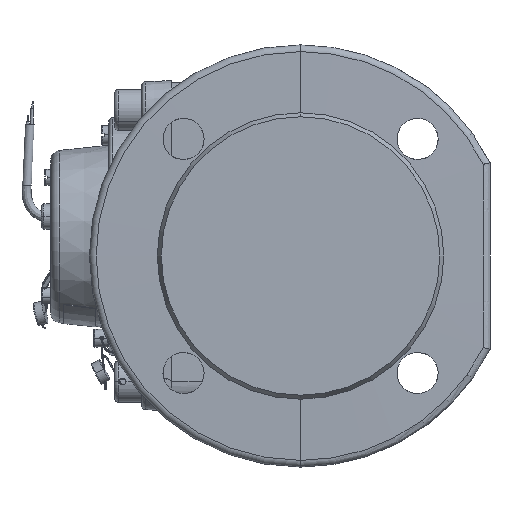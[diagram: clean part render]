
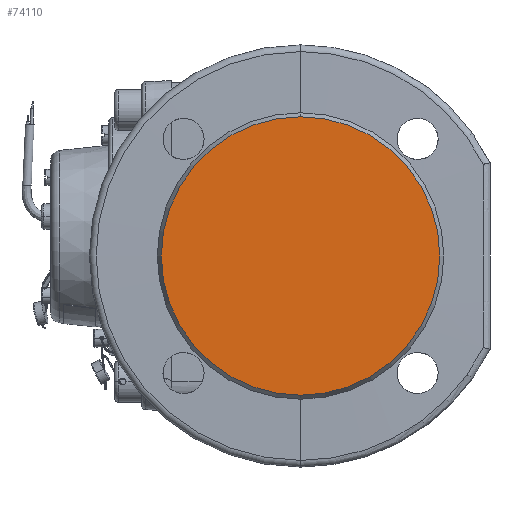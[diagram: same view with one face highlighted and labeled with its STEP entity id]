
A CAD part, left-side view. The second image highlights one B-rep face of the part: STEP entity #74110.
In plain terms, the highlighted planar face has unit normal (-1, 0, 0).
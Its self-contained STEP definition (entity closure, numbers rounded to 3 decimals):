
#5932 = CARTESIAN_POINT ( 'NONE',  ( -100., 0., 61. ) ) ;
#6964 = CARTESIAN_POINT ( 'NONE',  ( -100., 0., 0. ) ) ;
#9620 = AXIS2_PLACEMENT_3D ( 'NONE', #34902, #22672, #67319 ) ;
#10820 = VERTEX_POINT ( 'NONE', #5932 ) ;
#12944 = FACE_OUTER_BOUND ( 'NONE', #41183, .T. ) ;
#13735 = AXIS2_PLACEMENT_3D ( 'NONE', #6964, #66002, #73135 ) ;
#13838 = EDGE_CURVE ( 'NONE', #60481, #10820, #29865, .T. ) ;
#17457 = CARTESIAN_POINT ( 'NONE',  ( -100., 0., -61. ) ) ;
#22672 = DIRECTION ( 'NONE',  ( -1., 0., 0. ) ) ;
#26782 = CARTESIAN_POINT ( 'NONE',  ( -100., 0., 0. ) ) ;
#28111 = AXIS2_PLACEMENT_3D ( 'NONE', #26782, #78148, #66783 ) ;
#29865 = CIRCLE ( 'NONE', #9620, 61. ) ;
#30719 = CIRCLE ( 'NONE', #28111, 61. ) ;
#30775 = ORIENTED_EDGE ( 'NONE', *, *, #13838, .T. ) ;
#34902 = CARTESIAN_POINT ( 'NONE',  ( -100., 0., 0. ) ) ;
#39092 = PLANE ( 'NONE',  #13735 ) ;
#41183 = EDGE_LOOP ( 'NONE', ( #50455, #30775 ) ) ;
#50455 = ORIENTED_EDGE ( 'NONE', *, *, #68578, .T. ) ;
#60481 = VERTEX_POINT ( 'NONE', #17457 ) ;
#66002 = DIRECTION ( 'NONE',  ( 1., 0., 0. ) ) ;
#66783 = DIRECTION ( 'NONE',  ( 0., 0., 1. ) ) ;
#67319 = DIRECTION ( 'NONE',  ( 0., 0., 1. ) ) ;
#68578 = EDGE_CURVE ( 'NONE', #10820, #60481, #30719, .T. ) ;
#73135 = DIRECTION ( 'NONE',  ( 0., 0., 1. ) ) ;
#74110 = ADVANCED_FACE ( 'NONE', ( #12944 ), #39092, .F. ) ;
#78148 = DIRECTION ( 'NONE',  ( -1., 0., 0. ) ) ;
